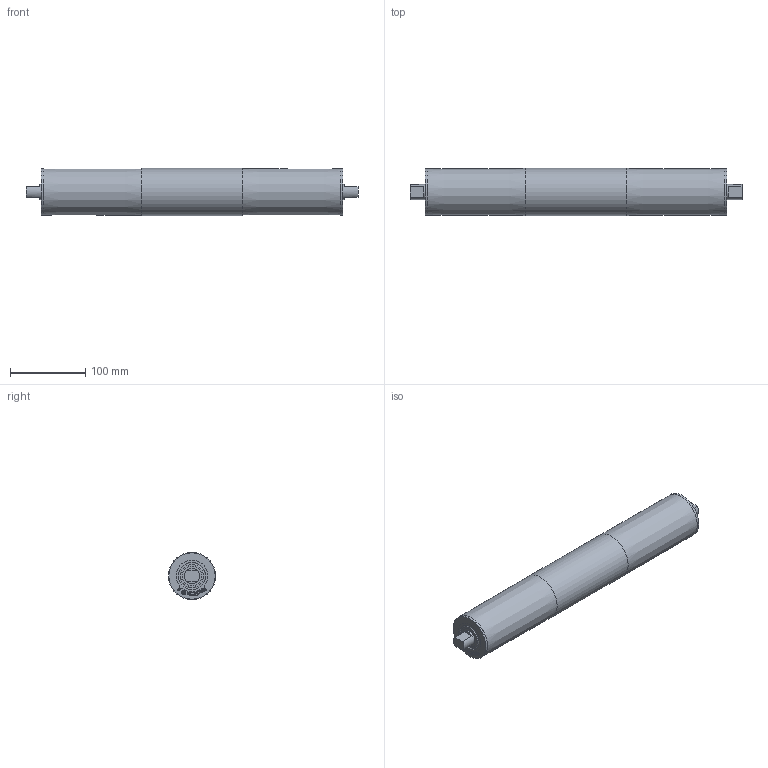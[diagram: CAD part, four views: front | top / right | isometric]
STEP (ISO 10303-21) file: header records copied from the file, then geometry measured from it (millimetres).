
FILE_DESCRIPTION(/* description */ (''),/* implementation_level */ '2;1');
FILE_NAME(/* name */ 'C:\WF_Ellegaard\Designs\00 standart komponenter\Tromlemotor\Scandrive S\Ø60\Scandrive S Ø60 RL400.stp',/* time_stamp */ '2017-04-14T12:04:25+02:00',/* author */ ('guh'),/* organization */ (''),/* preprocessor_version */ 'ST-DEVELOPER v15.6',/* originating_system */ 'Autodesk Inventor 2015',/* authorisation */ '');
FILE_SCHEMA (('AUTOMOTIVE_DESIGN { 1 0 10303 214 3 1 1 }'));
Length unit declared in the file: millimetre
Products named in the file (1): Scandrive S Ø60 RL400
Bounding box: 441 x 62.5 x 62.5 mm (x, y, z)
Volume: 312657.3 mm3; surface area: 159649.2 mm2
Topology: 1 solids, 2 shells, 454 faces, 1186 edges, 790 vertices
Faces by surface type: plane 236, bspline 196, cylinder 16, cone 4, torus 2
Full cylindrical faces by diameter (mm): 20 x2, 26 x2, 26.02 x2, 41.98 x2, 42 x2, 57 x1, 61.5 x2, 61.503 x2, 62.5 x1
Entity records: 14806 total; most frequent: CARTESIAN_POINT 4953, ORIENTED_EDGE 2324, DIRECTION 1336, EDGE_CURVE 1162, VERTEX_POINT 788, LINE 722, VECTOR 722, EDGE_LOOP 530
